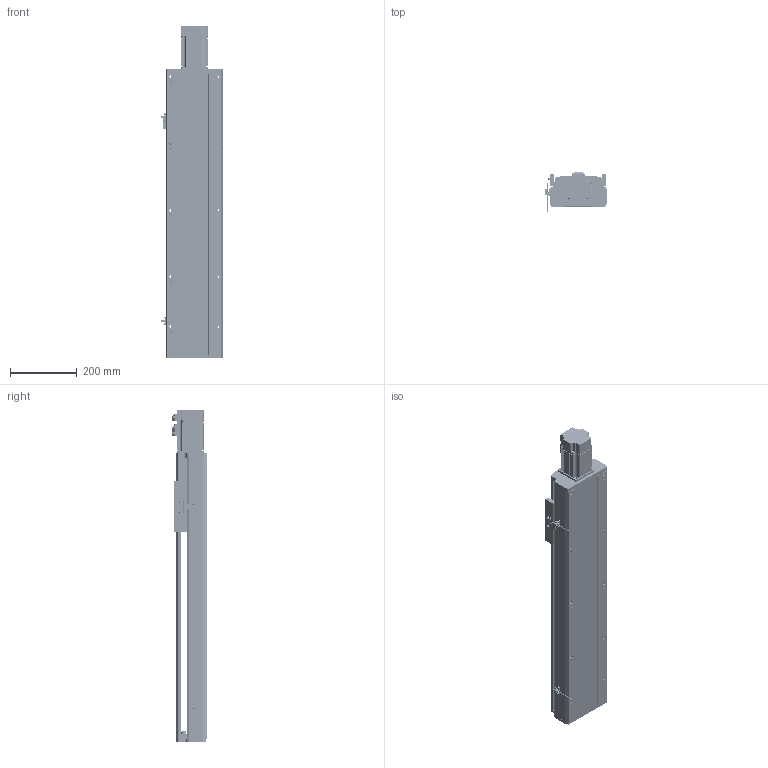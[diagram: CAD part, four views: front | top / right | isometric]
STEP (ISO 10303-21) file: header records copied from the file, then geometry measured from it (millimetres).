
FILE_DESCRIPTION (( 'STEP AP214' ), '1' );
FILE_NAME ('CTH170-600.STEP', '2019-11-25T08:55:14', ( '微软用户' ), ( '微软中国' ), 'SwSTEP 2.0', 'SolidWorks 2017', '' );
FILE_SCHEMA (( 'AUTOMOTIVE_DESIGN' ));
Length unit declared in the file: millimetre
Products named in the file (32): 坶踡蹟簽M15x1; EGH20CA_BLOCK; 潔路遠COL15-A; EG20_RAIL; MISUMI_B7002-DB_盄俶絳砃粣; 170賑怢; BEARING_MISUMI_B7002-DB_盄俶絳砃粣; 170裔啣^CTH170-L10-200; 錨璃8^蚾饜极3_CTH170-L10-200; 錨璃2; 复件 轴承座^装配体3_CTH170-L10-200; 佪話盓傅釱^CTH170-L10-200; CTH170-600; M5-L16囀鞠褒蹟佪; 遣喳蝶15x12x8-BR L; 支撑座^丝杠支撑座_CTH170-L10-200; B6002Z; _C-BSST2005_n; SFS2005-411-SZC; SFH2010佪裝; M3-L8囀鞠褒蹟佪; 80EMA-016A; EE-SX672峚倰換覜ん; 170萇儂啣; CT17耀郪-覜茼んえ; 170傷啣; M6-L20囀鞠褒蹟佪; EGH20CA; 蚾饜极3^CTH170-L10-200; M5-L20囀鞠褒蹟佪-BR L; M4-L10囀鞠褒蹟佪-BR L; M5-L10囀鞠褒蹟佪
Assembly tree (79 placements, depth 4):
  CTH170-600
    錨璃2
    170裔啣^CTH170-L10-200
    170賑怢
    EGH20CA  x2
      EG20_RAIL
      EGH20CA_BLOCK
      M5-L10囀鞠褒蹟佪
      M5-L20囀鞠褒蹟佪-BR L
    170傷啣
    170萇儂啣
    80EMA-016A
    SFS2005-411-SZC
      SFH2010佪裝
    _C-BSST2005_n
    佪話盓傅釱^CTH170-L10-200
      B6002Z
      支撑座^丝杠支撑座_CTH170-L10-200
      遣喳蝶15x12x8-BR L  x2
      M5-L16囀鞠褒蹟佪  x2
    蚾饜极3^CTH170-L10-200
      复件 轴承座^装配体3_CTH170-L10-200
      錨璃8^蚾饜极3_CTH170-L10-200
      MISUMI_B7002-DB_盄俶絳砃粣
        BEARING_MISUMI_B7002-DB_盄俶絳砃粣  x2
      潔路遠COL15-A  x2
      坶踡蹟簽M15x1
      M5-L16囀鞠褒蹟佪  x6
      M4-L10囀鞠褒蹟佪-BR L  x4
    遣喳蝶15x12x8-BR L  x2
    M6-L20囀鞠褒蹟佪  x4
    M4-L10囀鞠褒蹟佪-BR L  x10
    M5-L16囀鞠褒蹟佪  x4
    CT17耀郪-覜茼んえ
    EE-SX672峚倰換覜ん  x2
    M3-L8囀鞠褒蹟佪  x4
Bounding box: 183.7 x 117.95 x 996 mm (x, y, z)
Volume: 5957066.5 mm3; surface area: 1794925.1 mm2
Topology: 91 solids, 92 shells, 5629 faces, 14767 edges, 9416 vertices
Faces by surface type: plane 3118, cylinder 1500, cone 629, bspline 342, torus 40
Entity records: 100536 total; most frequent: CARTESIAN_POINT 21357, ORIENTED_EDGE 14448, DIRECTION 14079, EDGE_CURVE 7224, AXIS2_PLACEMENT_3D 4904, VERTEX_POINT 4696, VECTOR 4271, LINE 4271
